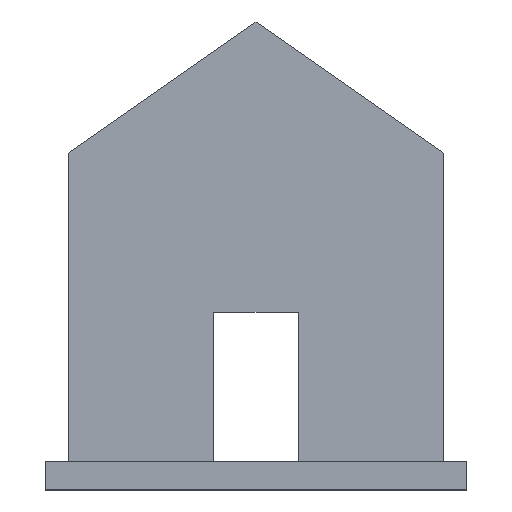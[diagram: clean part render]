
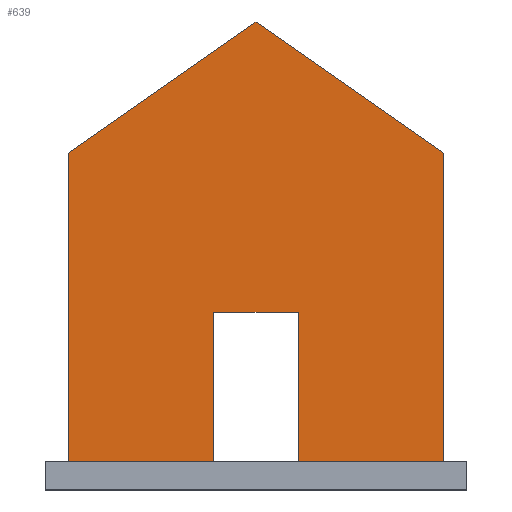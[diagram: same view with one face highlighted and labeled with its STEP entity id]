
A CAD part, top view. The second image highlights one B-rep face of the part: STEP entity #639.
In plain terms, the highlighted planar face has unit normal (0, 0, 1).
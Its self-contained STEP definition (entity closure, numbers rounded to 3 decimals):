
#100 = PLANE('',#101);
#101 = AXIS2_PLACEMENT_3D('',#102,#103,#104);
#102 = CARTESIAN_POINT('',(-45.,6.,-12.));
#103 = DIRECTION('',(0.,1.,0.));
#104 = DIRECTION('',(0.,0.,1.));
#317 = VERTEX_POINT('',#318);
#318 = CARTESIAN_POINT('',(-40.,6.,4.));
#332 = PLANE('',#333);
#333 = AXIS2_PLACEMENT_3D('',#334,#335,#336);
#334 = CARTESIAN_POINT('',(-40.,72.,-4.));
#335 = DIRECTION('',(1.,0.,-0.));
#336 = DIRECTION('',(0.,-1.,0.));
#373 = VERTEX_POINT('',#374);
#374 = CARTESIAN_POINT('',(-9.,6.,4.));
#388 = PLANE('',#389);
#389 = AXIS2_PLACEMENT_3D('',#390,#391,#392);
#390 = CARTESIAN_POINT('',(-9.,6.,-6.));
#391 = DIRECTION('',(1.,0.,0.));
#392 = DIRECTION('',(0.,0.,1.));
#400 = EDGE_CURVE('',#317,#373,#401,.T.);
#401 = SURFACE_CURVE('',#402,(#406,#413),.PCURVE_S1.);
#402 = LINE('',#403,#404);
#403 = CARTESIAN_POINT('',(-40.,6.,4.));
#404 = VECTOR('',#405,1.);
#405 = DIRECTION('',(1.,0.,0.));
#406 = PCURVE('',#100,#407);
#407 = DEFINITIONAL_REPRESENTATION('',(#408),#412);
#408 = LINE('',#409,#410);
#409 = CARTESIAN_POINT('',(16.,5.));
#410 = VECTOR('',#411,1.);
#411 = DIRECTION('',(0.,1.));
#412 = ( GEOMETRIC_REPRESENTATION_CONTEXT(2) 
PARAMETRIC_REPRESENTATION_CONTEXT() REPRESENTATION_CONTEXT('2D SPACE',''
  ) );
#413 = PCURVE('',#414,#419);
#414 = PLANE('',#415);
#415 = AXIS2_PLACEMENT_3D('',#416,#417,#418);
#416 = CARTESIAN_POINT('',(0.,45.296,4.));
#417 = DIRECTION('',(0.,0.,1.));
#418 = DIRECTION('',(1.,0.,-0.));
#419 = DEFINITIONAL_REPRESENTATION('',(#420),#424);
#420 = LINE('',#421,#422);
#421 = CARTESIAN_POINT('',(-40.,-39.296));
#422 = VECTOR('',#423,1.);
#423 = DIRECTION('',(1.,0.));
#424 = ( GEOMETRIC_REPRESENTATION_CONTEXT(2) 
PARAMETRIC_REPRESENTATION_CONTEXT() REPRESENTATION_CONTEXT('2D SPACE',''
  ) );
#428 = EDGE_CURVE('',#429,#431,#433,.T.);
#429 = VERTEX_POINT('',#430);
#430 = CARTESIAN_POINT('',(9.,6.,4.));
#431 = VERTEX_POINT('',#432);
#432 = CARTESIAN_POINT('',(40.,6.,4.));
#433 = SURFACE_CURVE('',#434,(#438,#445),.PCURVE_S1.);
#434 = LINE('',#435,#436);
#435 = CARTESIAN_POINT('',(-40.,6.,4.));
#436 = VECTOR('',#437,1.);
#437 = DIRECTION('',(1.,0.,0.));
#438 = PCURVE('',#100,#439);
#439 = DEFINITIONAL_REPRESENTATION('',(#440),#444);
#440 = LINE('',#441,#442);
#441 = CARTESIAN_POINT('',(16.,5.));
#442 = VECTOR('',#443,1.);
#443 = DIRECTION('',(0.,1.));
#444 = ( GEOMETRIC_REPRESENTATION_CONTEXT(2) 
PARAMETRIC_REPRESENTATION_CONTEXT() REPRESENTATION_CONTEXT('2D SPACE',''
  ) );
#445 = PCURVE('',#414,#446);
#446 = DEFINITIONAL_REPRESENTATION('',(#447),#451);
#447 = LINE('',#448,#449);
#448 = CARTESIAN_POINT('',(-40.,-39.296));
#449 = VECTOR('',#450,1.);
#450 = DIRECTION('',(1.,0.));
#451 = ( GEOMETRIC_REPRESENTATION_CONTEXT(2) 
PARAMETRIC_REPRESENTATION_CONTEXT() REPRESENTATION_CONTEXT('2D SPACE',''
  ) );
#469 = PLANE('',#470);
#470 = AXIS2_PLACEMENT_3D('',#471,#472,#473);
#471 = CARTESIAN_POINT('',(9.,6.,-6.));
#472 = DIRECTION('',(1.,0.,0.));
#473 = DIRECTION('',(0.,0.,1.));
#518 = PLANE('',#519);
#519 = AXIS2_PLACEMENT_3D('',#520,#521,#522);
#520 = CARTESIAN_POINT('',(40.,6.,-4.));
#521 = DIRECTION('',(-1.,0.,0.));
#522 = DIRECTION('',(0.,1.,0.));
#570 = VERTEX_POINT('',#571);
#571 = CARTESIAN_POINT('',(-40.,72.,4.));
#585 = PLANE('',#586);
#586 = AXIS2_PLACEMENT_3D('',#587,#588,#589);
#587 = CARTESIAN_POINT('',(0.,100.,-4.));
#588 = DIRECTION('',(0.573,-0.819,0.));
#589 = DIRECTION('',(-0.819,-0.573,0.));
#597 = EDGE_CURVE('',#570,#317,#598,.T.);
#598 = SURFACE_CURVE('',#599,(#603,#610),.PCURVE_S1.);
#599 = LINE('',#600,#601);
#600 = CARTESIAN_POINT('',(-40.,72.,4.));
#601 = VECTOR('',#602,1.);
#602 = DIRECTION('',(0.,-1.,0.));
#603 = PCURVE('',#332,#604);
#604 = DEFINITIONAL_REPRESENTATION('',(#605),#609);
#605 = LINE('',#606,#607);
#606 = CARTESIAN_POINT('',(0.,-8.));
#607 = VECTOR('',#608,1.);
#608 = DIRECTION('',(1.,0.));
#609 = ( GEOMETRIC_REPRESENTATION_CONTEXT(2) 
PARAMETRIC_REPRESENTATION_CONTEXT() REPRESENTATION_CONTEXT('2D SPACE',''
  ) );
#610 = PCURVE('',#414,#611);
#611 = DEFINITIONAL_REPRESENTATION('',(#612),#616);
#612 = LINE('',#613,#614);
#613 = CARTESIAN_POINT('',(-40.,26.704));
#614 = VECTOR('',#615,1.);
#615 = DIRECTION('',(0.,-1.));
#616 = ( GEOMETRIC_REPRESENTATION_CONTEXT(2) 
PARAMETRIC_REPRESENTATION_CONTEXT() REPRESENTATION_CONTEXT('2D SPACE',''
  ) );
#639 = ADVANCED_FACE('',(#640),#414,.T.);
#640 = FACE_BOUND('',#641,.T.);
#641 = EDGE_LOOP('',(#642,#643,#644,#665,#691,#710,#711,#734,#762));
#642 = ORIENTED_EDGE('',*,*,#597,.T.);
#643 = ORIENTED_EDGE('',*,*,#400,.T.);
#644 = ORIENTED_EDGE('',*,*,#645,.T.);
#645 = EDGE_CURVE('',#373,#646,#648,.T.);
#646 = VERTEX_POINT('',#647);
#647 = CARTESIAN_POINT('',(-9.,38.,4.));
#648 = SURFACE_CURVE('',#649,(#653,#659),.PCURVE_S1.);
#649 = LINE('',#650,#651);
#650 = CARTESIAN_POINT('',(-9.,25.648,4.));
#651 = VECTOR('',#652,1.);
#652 = DIRECTION('',(0.,1.,0.));
#653 = PCURVE('',#414,#654);
#654 = DEFINITIONAL_REPRESENTATION('',(#655),#658);
#655 = B_SPLINE_CURVE_WITH_KNOTS('',1,(#656,#657),.UNSPECIFIED.,.F.,.F.,
  (2,2),(-19.648,12.352),.PIECEWISE_BEZIER_KNOTS.);
#656 = CARTESIAN_POINT('',(-9.,-39.296));
#657 = CARTESIAN_POINT('',(-9.,-7.296));
#658 = ( GEOMETRIC_REPRESENTATION_CONTEXT(2) 
PARAMETRIC_REPRESENTATION_CONTEXT() REPRESENTATION_CONTEXT('2D SPACE',''
  ) );
#659 = PCURVE('',#388,#660);
#660 = DEFINITIONAL_REPRESENTATION('',(#661),#664);
#661 = B_SPLINE_CURVE_WITH_KNOTS('',1,(#662,#663),.UNSPECIFIED.,.F.,.F.,
  (2,2),(-19.648,12.352),.PIECEWISE_BEZIER_KNOTS.);
#662 = CARTESIAN_POINT('',(10.,0.));
#663 = CARTESIAN_POINT('',(10.,-32.));
#664 = ( GEOMETRIC_REPRESENTATION_CONTEXT(2) 
PARAMETRIC_REPRESENTATION_CONTEXT() REPRESENTATION_CONTEXT('2D SPACE',''
  ) );
#665 = ORIENTED_EDGE('',*,*,#666,.F.);
#666 = EDGE_CURVE('',#667,#646,#669,.T.);
#667 = VERTEX_POINT('',#668);
#668 = CARTESIAN_POINT('',(9.,38.,4.));
#669 = SURFACE_CURVE('',#670,(#674,#680),.PCURVE_S1.);
#670 = LINE('',#671,#672);
#671 = CARTESIAN_POINT('',(-4.5,38.,4.));
#672 = VECTOR('',#673,1.);
#673 = DIRECTION('',(-1.,0.,0.));
#674 = PCURVE('',#414,#675);
#675 = DEFINITIONAL_REPRESENTATION('',(#676),#679);
#676 = B_SPLINE_CURVE_WITH_KNOTS('',1,(#677,#678),.UNSPECIFIED.,.F.,.F.,
  (2,2),(-13.5,4.5),.PIECEWISE_BEZIER_KNOTS.);
#677 = CARTESIAN_POINT('',(9.,-7.296));
#678 = CARTESIAN_POINT('',(-9.,-7.296));
#679 = ( GEOMETRIC_REPRESENTATION_CONTEXT(2) 
PARAMETRIC_REPRESENTATION_CONTEXT() REPRESENTATION_CONTEXT('2D SPACE',''
  ) );
#680 = PCURVE('',#681,#686);
#681 = PLANE('',#682);
#682 = AXIS2_PLACEMENT_3D('',#683,#684,#685);
#683 = CARTESIAN_POINT('',(-9.,38.,-6.));
#684 = DIRECTION('',(0.,1.,0.));
#685 = DIRECTION('',(0.,0.,1.));
#686 = DEFINITIONAL_REPRESENTATION('',(#687),#690);
#687 = B_SPLINE_CURVE_WITH_KNOTS('',1,(#688,#689),.UNSPECIFIED.,.F.,.F.,
  (2,2),(-13.5,4.5),.PIECEWISE_BEZIER_KNOTS.);
#688 = CARTESIAN_POINT('',(10.,18.));
#689 = CARTESIAN_POINT('',(10.,0.));
#690 = ( GEOMETRIC_REPRESENTATION_CONTEXT(2) 
PARAMETRIC_REPRESENTATION_CONTEXT() REPRESENTATION_CONTEXT('2D SPACE',''
  ) );
#691 = ORIENTED_EDGE('',*,*,#692,.F.);
#692 = EDGE_CURVE('',#429,#667,#693,.T.);
#693 = SURFACE_CURVE('',#694,(#698,#704),.PCURVE_S1.);
#694 = LINE('',#695,#696);
#695 = CARTESIAN_POINT('',(9.,25.648,4.));
#696 = VECTOR('',#697,1.);
#697 = DIRECTION('',(0.,1.,0.));
#698 = PCURVE('',#414,#699);
#699 = DEFINITIONAL_REPRESENTATION('',(#700),#703);
#700 = B_SPLINE_CURVE_WITH_KNOTS('',1,(#701,#702),.UNSPECIFIED.,.F.,.F.,
  (2,2),(-19.648,12.352),.PIECEWISE_BEZIER_KNOTS.);
#701 = CARTESIAN_POINT('',(9.,-39.296));
#702 = CARTESIAN_POINT('',(9.,-7.296));
#703 = ( GEOMETRIC_REPRESENTATION_CONTEXT(2) 
PARAMETRIC_REPRESENTATION_CONTEXT() REPRESENTATION_CONTEXT('2D SPACE',''
  ) );
#704 = PCURVE('',#469,#705);
#705 = DEFINITIONAL_REPRESENTATION('',(#706),#709);
#706 = B_SPLINE_CURVE_WITH_KNOTS('',1,(#707,#708),.UNSPECIFIED.,.F.,.F.,
  (2,2),(-19.648,12.352),.PIECEWISE_BEZIER_KNOTS.);
#707 = CARTESIAN_POINT('',(10.,0.));
#708 = CARTESIAN_POINT('',(10.,-32.));
#709 = ( GEOMETRIC_REPRESENTATION_CONTEXT(2) 
PARAMETRIC_REPRESENTATION_CONTEXT() REPRESENTATION_CONTEXT('2D SPACE',''
  ) );
#710 = ORIENTED_EDGE('',*,*,#428,.T.);
#711 = ORIENTED_EDGE('',*,*,#712,.T.);
#712 = EDGE_CURVE('',#431,#713,#715,.T.);
#713 = VERTEX_POINT('',#714);
#714 = CARTESIAN_POINT('',(40.,72.,4.));
#715 = SURFACE_CURVE('',#716,(#720,#727),.PCURVE_S1.);
#716 = LINE('',#717,#718);
#717 = CARTESIAN_POINT('',(40.,6.,4.));
#718 = VECTOR('',#719,1.);
#719 = DIRECTION('',(0.,1.,0.));
#720 = PCURVE('',#414,#721);
#721 = DEFINITIONAL_REPRESENTATION('',(#722),#726);
#722 = LINE('',#723,#724);
#723 = CARTESIAN_POINT('',(40.,-39.296));
#724 = VECTOR('',#725,1.);
#725 = DIRECTION('',(0.,1.));
#726 = ( GEOMETRIC_REPRESENTATION_CONTEXT(2) 
PARAMETRIC_REPRESENTATION_CONTEXT() REPRESENTATION_CONTEXT('2D SPACE',''
  ) );
#727 = PCURVE('',#518,#728);
#728 = DEFINITIONAL_REPRESENTATION('',(#729),#733);
#729 = LINE('',#730,#731);
#730 = CARTESIAN_POINT('',(0.,-8.));
#731 = VECTOR('',#732,1.);
#732 = DIRECTION('',(1.,0.));
#733 = ( GEOMETRIC_REPRESENTATION_CONTEXT(2) 
PARAMETRIC_REPRESENTATION_CONTEXT() REPRESENTATION_CONTEXT('2D SPACE',''
  ) );
#734 = ORIENTED_EDGE('',*,*,#735,.T.);
#735 = EDGE_CURVE('',#713,#736,#738,.T.);
#736 = VERTEX_POINT('',#737);
#737 = CARTESIAN_POINT('',(0.,100.,4.));
#738 = SURFACE_CURVE('',#739,(#743,#750),.PCURVE_S1.);
#739 = LINE('',#740,#741);
#740 = CARTESIAN_POINT('',(40.,72.,4.));
#741 = VECTOR('',#742,1.);
#742 = DIRECTION('',(-0.819,0.573,0.));
#743 = PCURVE('',#414,#744);
#744 = DEFINITIONAL_REPRESENTATION('',(#745),#749);
#745 = LINE('',#746,#747);
#746 = CARTESIAN_POINT('',(40.,26.704));
#747 = VECTOR('',#748,1.);
#748 = DIRECTION('',(-0.819,0.573));
#749 = ( GEOMETRIC_REPRESENTATION_CONTEXT(2) 
PARAMETRIC_REPRESENTATION_CONTEXT() REPRESENTATION_CONTEXT('2D SPACE',''
  ) );
#750 = PCURVE('',#751,#756);
#751 = PLANE('',#752);
#752 = AXIS2_PLACEMENT_3D('',#753,#754,#755);
#753 = CARTESIAN_POINT('',(40.,72.,-4.));
#754 = DIRECTION('',(-0.573,-0.819,0.));
#755 = DIRECTION('',(-0.819,0.573,0.));
#756 = DEFINITIONAL_REPRESENTATION('',(#757),#761);
#757 = LINE('',#758,#759);
#758 = CARTESIAN_POINT('',(0.,-8.));
#759 = VECTOR('',#760,1.);
#760 = DIRECTION('',(1.,0.));
#761 = ( GEOMETRIC_REPRESENTATION_CONTEXT(2) 
PARAMETRIC_REPRESENTATION_CONTEXT() REPRESENTATION_CONTEXT('2D SPACE',''
  ) );
#762 = ORIENTED_EDGE('',*,*,#763,.T.);
#763 = EDGE_CURVE('',#736,#570,#764,.T.);
#764 = SURFACE_CURVE('',#765,(#769,#776),.PCURVE_S1.);
#765 = LINE('',#766,#767);
#766 = CARTESIAN_POINT('',(0.,100.,4.));
#767 = VECTOR('',#768,1.);
#768 = DIRECTION('',(-0.819,-0.573,0.));
#769 = PCURVE('',#414,#770);
#770 = DEFINITIONAL_REPRESENTATION('',(#771),#775);
#771 = LINE('',#772,#773);
#772 = CARTESIAN_POINT('',(0.,54.704));
#773 = VECTOR('',#774,1.);
#774 = DIRECTION('',(-0.819,-0.573));
#775 = ( GEOMETRIC_REPRESENTATION_CONTEXT(2) 
PARAMETRIC_REPRESENTATION_CONTEXT() REPRESENTATION_CONTEXT('2D SPACE',''
  ) );
#776 = PCURVE('',#585,#777);
#777 = DEFINITIONAL_REPRESENTATION('',(#778),#782);
#778 = LINE('',#779,#780);
#779 = CARTESIAN_POINT('',(0.,-8.));
#780 = VECTOR('',#781,1.);
#781 = DIRECTION('',(1.,0.));
#782 = ( GEOMETRIC_REPRESENTATION_CONTEXT(2) 
PARAMETRIC_REPRESENTATION_CONTEXT() REPRESENTATION_CONTEXT('2D SPACE',''
  ) );
